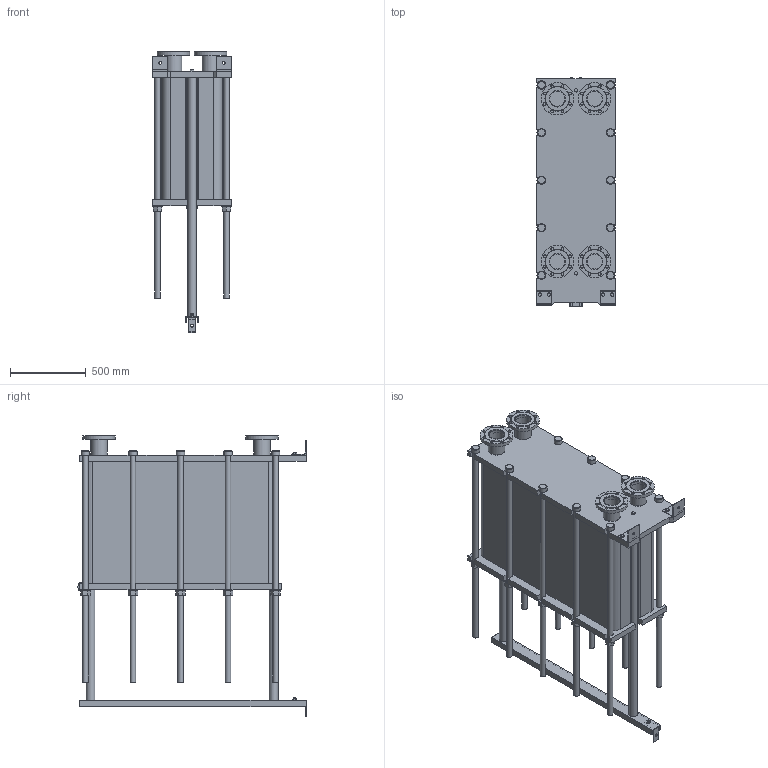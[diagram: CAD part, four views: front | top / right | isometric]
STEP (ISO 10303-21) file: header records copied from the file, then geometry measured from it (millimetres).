
FILE_DESCRIPTION(/* description */ (''),/* implementation_level */ '2;1');
FILE_NAME(/* name */ 'C:\Users\zhuro\Desktop\ENCO\TO\ЭН-04\ЭН-0,5-04-235-1.stp',/* time_stamp */ '2022-06-06T11:05:57+03:00',/* author */ ('zhuro'),/* organization */ (''),/* preprocessor_version */ 'ST-DEVELOPER v18.1',/* originating_system */ 'Autodesk Inventor 2022',/* authorisation */ '');
FILE_SCHEMA (('AUTOMOTIVE_DESIGN { 1 0 10303 214 3 1 1 }'));
Length unit declared in the file: millimetre
Products named in the file (1): ЭН-0,5-04-235-1
Bounding box: 520 x 1510 x 1857.5 mm (x, y, z)
Volume: 483650346.1 mm3; surface area: 11323924.7 mm2
Topology: 45 solids, 45 shells, 668 faces, 1611 edges, 1048 vertices
Faces by surface type: plane 457, cylinder 166, cone 39, torus 6
Full cylindrical faces by diameter (mm): 8 x4, 10 x2, 16 x8, 18 x35, 36 x25, 40 x2, 42 x1, 45 x4, 54 x10, 57 x2, 60 x10, 68 x2, 100 x4, 110 x8, 215 x4
Entity records: 23607 total; most frequent: CARTESIAN_POINT 7348, DIRECTION 3371, ORIENTED_EDGE 3142, EDGE_CURVE 1571, AXIS2_PLACEMENT_3D 1199, VERTEX_POINT 1044, LINE 973, VECTOR 973
